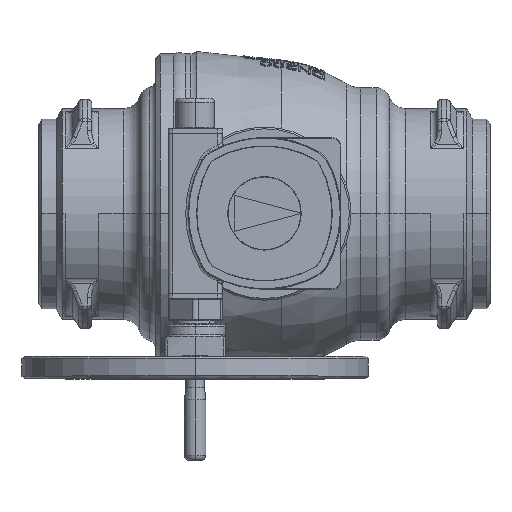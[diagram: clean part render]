
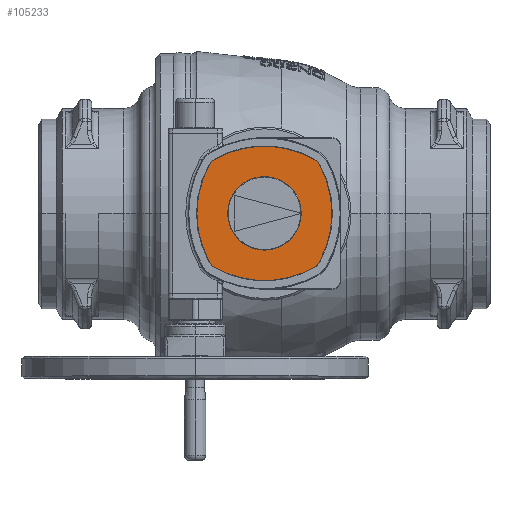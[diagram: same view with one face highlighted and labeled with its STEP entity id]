
A CAD part, top view. The second image highlights one B-rep face of the part: STEP entity #105233.
In plain terms, the highlighted planar face has unit normal (0, 0, 1).
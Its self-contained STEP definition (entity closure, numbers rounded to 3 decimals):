
#96099=CARTESIAN_POINT('',(50.17,-49.004,104.));
#96100=DIRECTION('',(0.,0.,-1.));
#96101=DIRECTION('',(0.872,-0.49,0.));
#96102=AXIS2_PLACEMENT_3D('',#96099,#96100,#96101);
#96104=CARTESIAN_POINT('',(0.,37.5,104.));
#96105=DIRECTION('',(0.,0.,-1.));
#96106=DIRECTION('',(0.502,-0.865,0.));
#96107=AXIS2_PLACEMENT_3D('',#96104,#96105,#96106);
#96109=CARTESIAN_POINT('',(-50.17,-49.004,104.));
#96110=DIRECTION('',(0.,0.,-1.));
#96111=DIRECTION('',(-0.502,-0.865,0.));
#96112=AXIS2_PLACEMENT_3D('',#96109,#96110,#96111);
#96114=CARTESIAN_POINT('',(37.,0.,104.));
#96115=DIRECTION('',(0.,0.,-1.));
#96116=DIRECTION('',(-0.872,-0.49,0.));
#96117=AXIS2_PLACEMENT_3D('',#96114,#96115,#96116);
#96119=CARTESIAN_POINT('',(37.,0.,104.));
#96120=DIRECTION('',(0.,0.,-1.));
#96121=DIRECTION('',(-1.,0.,0.));
#96122=AXIS2_PLACEMENT_3D('',#96119,#96120,#96121);
#96124=CARTESIAN_POINT('',(-50.17,49.004,104.));
#96125=DIRECTION('',(0.,0.,-1.));
#96126=DIRECTION('',(-0.872,0.49,0.));
#96127=AXIS2_PLACEMENT_3D('',#96124,#96125,#96126);
#96129=CARTESIAN_POINT('',(0.,-37.5,104.));
#96130=DIRECTION('',(0.,0.,-1.));
#96131=DIRECTION('',(-0.502,0.865,0.));
#96132=AXIS2_PLACEMENT_3D('',#96129,#96130,#96131);
#96134=CARTESIAN_POINT('',(50.17,49.004,104.));
#96135=DIRECTION('',(0.,0.,-1.));
#96136=DIRECTION('',(0.502,0.865,0.));
#96137=AXIS2_PLACEMENT_3D('',#96134,#96135,#96136);
#96139=CARTESIAN_POINT('',(-37.,0.,104.));
#96140=DIRECTION('',(0.,0.,-1.));
#96141=DIRECTION('',(0.872,0.49,0.));
#96142=AXIS2_PLACEMENT_3D('',#96139,#96140,#96141);
#96144=CARTESIAN_POINT('',(-37.,0.,104.));
#96145=DIRECTION('',(0.,0.,-1.));
#96146=DIRECTION('',(1.,0.,0.));
#96147=AXIS2_PLACEMENT_3D('',#96144,#96145,#96146);
#96149=CARTESIAN_POINT('',(0.,0.,104.));
#96150=DIRECTION('',(0.,0.,1.));
#96151=DIRECTION('',(-1.,0.,0.));
#96152=AXIS2_PLACEMENT_3D('',#96149,#96150,#96151);
#96154=CARTESIAN_POINT('',(0.,0.,104.));
#96155=DIRECTION('',(0.,0.,1.));
#96156=DIRECTION('',(1.,0.,0.));
#96157=AXIS2_PLACEMENT_3D('',#96154,#96155,#96156);
#96337=CARTESIAN_POINT('',(57.695,61.98,104.));
#96338=VERTEX_POINT('',#96337);
#96339=CARTESIAN_POINT('',(-57.695,61.98,104.));
#96340=VERTEX_POINT('',#96339);
#96341=CARTESIAN_POINT('',(63.245,56.355,104.));
#96342=VERTEX_POINT('',#96341);
#96343=CARTESIAN_POINT('',(63.245,-56.355,104.));
#96344=VERTEX_POINT('',#96343);
#96345=CARTESIAN_POINT('',(78.,0.,104.));
#96346=VERTEX_POINT('',#96345);
#96347=CARTESIAN_POINT('',(57.695,-61.98,104.));
#96348=VERTEX_POINT('',#96347);
#96349=CARTESIAN_POINT('',(-57.695,-61.98,104.));
#96350=VERTEX_POINT('',#96349);
#96351=CARTESIAN_POINT('',(-63.245,-56.355,104.));
#96352=VERTEX_POINT('',#96351);
#96353=CARTESIAN_POINT('',(-63.245,56.355,104.));
#96354=VERTEX_POINT('',#96353);
#96355=CARTESIAN_POINT('',(-78.,0.,104.));
#96356=VERTEX_POINT('',#96355);
#96357=CARTESIAN_POINT('',(-42.5,0.,104.));
#96358=CARTESIAN_POINT('',(42.5,0.,104.));
#96359=VERTEX_POINT('',#96357);
#96360=VERTEX_POINT('',#96358);
#105210=CARTESIAN_POINT('',(0.,0.,104.));
#105211=DIRECTION('',(0.,0.,1.));
#105212=DIRECTION('',(1.,0.,0.));
#105213=AXIS2_PLACEMENT_3D('',#105210,#105211,#105212);
#105214=PLANE('',#105213);
#105215=ORIENTED_EDGE('',*,*,#105146,.T.);
#105216=ORIENTED_EDGE('',*,*,#105160,.T.);
#105217=ORIENTED_EDGE('',*,*,#105174,.T.);
#105218=ORIENTED_EDGE('',*,*,#105191,.T.);
#105219=ORIENTED_EDGE('',*,*,#105189,.T.);
#105220=ORIENTED_EDGE('',*,*,#105204,.T.);
#105221=ORIENTED_EDGE('',*,*,#105100,.T.);
#105222=ORIENTED_EDGE('',*,*,#105115,.T.);
#105223=ORIENTED_EDGE('',*,*,#105132,.T.);
#105224=ORIENTED_EDGE('',*,*,#105130,.T.);
#105225=EDGE_LOOP('',(#105215,#105216,#105217,#105218,#105219,#105220,#105221,
#105222,#105223,#105224));
#105226=FACE_OUTER_BOUND('',#105225,.F.);
#105228=ORIENTED_EDGE('',*,*,#105227,.T.);
#105230=ORIENTED_EDGE('',*,*,#105229,.T.);
#105231=EDGE_LOOP('',(#105228,#105230));
#105232=FACE_BOUND('',#105231,.F.);
#105233=ADVANCED_FACE('',(#105226,#105232),#105214,.T.);
#96103=CIRCLE('',#96102,15.);
#96108=CIRCLE('',#96107,115.);
#96113=CIRCLE('',#96112,15.);
#96118=CIRCLE('',#96117,115.);
#96123=CIRCLE('',#96122,115.);
#96128=CIRCLE('',#96127,15.);
#96133=CIRCLE('',#96132,115.);
#96138=CIRCLE('',#96137,15.);
#96143=CIRCLE('',#96142,115.);
#96148=CIRCLE('',#96147,115.);
#96153=CIRCLE('',#96152,42.5);
#96158=CIRCLE('',#96157,42.5);
#105100=EDGE_CURVE('',#96340,#96338,#96133,.T.);
#105115=EDGE_CURVE('',#96338,#96342,#96138,.T.);
#105130=EDGE_CURVE('',#96346,#96344,#96148,.T.);
#105132=EDGE_CURVE('',#96342,#96346,#96143,.T.);
#105146=EDGE_CURVE('',#96344,#96348,#96103,.T.);
#105160=EDGE_CURVE('',#96348,#96350,#96108,.T.);
#105174=EDGE_CURVE('',#96350,#96352,#96113,.T.);
#105189=EDGE_CURVE('',#96356,#96354,#96123,.T.);
#105191=EDGE_CURVE('',#96352,#96356,#96118,.T.);
#105204=EDGE_CURVE('',#96354,#96340,#96128,.T.);
#105227=EDGE_CURVE('',#96359,#96360,#96153,.T.);
#105229=EDGE_CURVE('',#96360,#96359,#96158,.T.);
